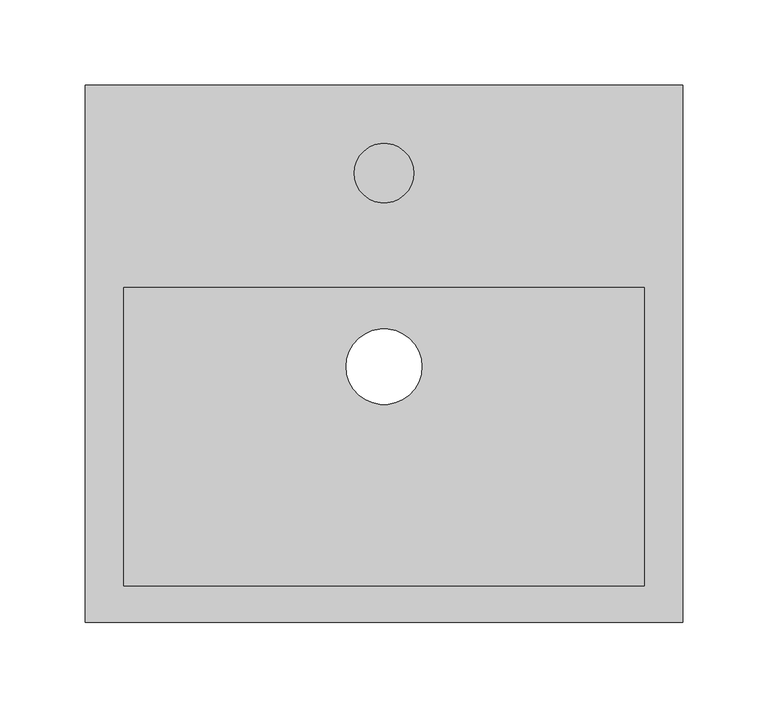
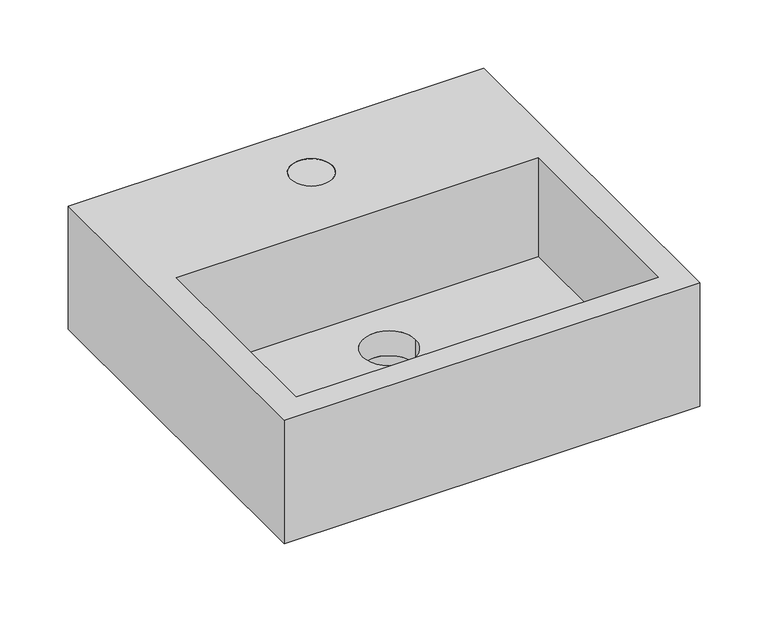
"""IFC4 building model written with IfcOpenShell, lengths in millimetres: flow terminal geometry, Deca_Cuba de Apoio Retangular_L7300 : L.7300.17_Branco Gelo GE17."""

from ifc_helpers import new_model, si_unit, point, frame, frame_2d, origin, origin_with_axes, origin_2d, place, context, project, spatial, polyline, circle_curve, trimmed, segment, composite_curve, outline, extrude, source, transform, mapped, element, save
from ifc_brep_helpers import plane_surface, revolved_surface, advanced_brep


def flow_terminal_3fb7dc42(model_context):
    return source(origin(), model_context, "Body", "SolidModel", [
        advanced_brep(
        [(175.0, 165.0, 110.0), (-175.0, 165.0, 110.0), (-175.0, -150.0, 110.0), (175.0, -150.0, 110.0), (-152.5, 46.5, 110.0), (152.5, 46.5, 110.0), (152.5, -128.5, 110.0), (-152.5, -128.5, 110.0), (17.5, 113.5, 110.0), (-17.5, 113.5, 110.0), (175.0, 165.0, 0.0), (175.0, -150.0, 0.0), (-175.0, -150.0, 0.0), (-175.0, 165.0, 0.0), (17.5, 113.5, 0.0), (-17.5, 113.5, 0.0), (-22.2, 0.0, 0.0), (22.2, 0.0, 0.0), (152.5, 46.5, 22.0), (-152.5, 46.5, 22.0), (-152.5, -128.5, 22.0), (152.5, -128.5, 22.0), (-22.2, 0.0, 22.0), (22.2, 0.0, 22.0)],
        [
            (0, 1),
            (1, 2),
            (2, 3),
            (3, 0),
            (4, 5),
            (5, 6),
            (6, 7),
            (7, 4),
            (8, 9, circle_curve(frame((0.0, 113.5, 110.0), z_axis=(0.0, 0.0, -1.0), x_axis=(1.0, 0.0, 0.0)), 17.5)),
            (9, 8, circle_curve(frame((0.0, 113.5, 110.0), z_axis=(0.0, 0.0, -1.0), x_axis=(1.0, 0.0, 0.0)), 17.5)),
            (10, 11),
            (11, 12),
            (12, 13),
            (13, 10),
            (14, 15, circle_curve(frame((0.0, 113.5, 0.0), z_axis=(0.0, 0.0, 1.0), x_axis=(1.0, 0.0, 0.0)), 17.5)),
            (15, 14, circle_curve(frame((0.0, 113.5, 0.0), z_axis=(0.0, 0.0, 1.0), x_axis=(1.0, 0.0, 0.0)), 17.5)),
            (16, 17, circle_curve(origin_with_axes(), 22.2)),
            (17, 16, circle_curve(origin_with_axes(), 22.2)),
            (0, 10),
            (13, 1),
            (12, 2),
            (11, 3),
            (18, 19),
            (19, 20),
            (20, 21),
            (21, 18),
            (22, 23, circle_curve(frame((0.0, 0.0, 22.0), z_axis=(0.0, 0.0, -1.0), x_axis=(1.0, 0.0, 0.0)), 22.2)),
            (23, 22, circle_curve(frame((0.0, 0.0, 22.0), z_axis=(0.0, 0.0, -1.0), x_axis=(1.0, 0.0, 0.0)), 22.2)),
            (18, 5),
            (4, 19),
            (7, 20),
            (6, 21),
            (8, 14),
            (15, 9),
            (17, 23),
            (22, 16),
        ],
        [
            plane_surface(frame((-175.0, 165.0, 110.0), z_axis=(0.0, 0.0, 1.0), x_axis=(-1.0, 0.0, 0.0))),
            plane_surface(frame((-175.0, 165.0, 0.0), z_axis=(0.0, 0.0, -1.0), x_axis=(1.0, 0.0, 0.0))),
            plane_surface(frame((175.0, 165.0, 110.0), z_axis=(0.0, 1.0, 0.0), x_axis=(0.0, 0.0, -1.0))),
            plane_surface(frame((-175.0, 165.0, 110.0), z_axis=(-1.0, 0.0, 0.0), x_axis=(0.0, 0.0, -1.0))),
            plane_surface(frame((-175.0, -150.0, 110.0), z_axis=(0.0, -1.0, 0.0), x_axis=(0.0, 0.0, -1.0))),
            plane_surface(frame((175.0, -150.0, 110.0), z_axis=(1.0, 0.0, 0.0), x_axis=(0.0, 0.0, -1.0))),
            plane_surface(frame((-152.5, 46.5, 22.0), z_axis=(0.0, 0.0, 1.0), x_axis=(1.0, 0.0, 0.0))),
            plane_surface(frame((152.5, 46.5, 110.0), z_axis=(0.0, -1.0, 0.0), x_axis=(0.0, 0.0, -1.0))),
            plane_surface(frame((-152.5, 46.5, 110.0), z_axis=(1.0, 0.0, 0.0), x_axis=(0.0, 0.0, -1.0))),
            plane_surface(frame((-152.5, -128.5, 110.0), z_axis=(0.0, 1.0, 0.0), x_axis=(0.0, 0.0, -1.0))),
            plane_surface(frame((152.5, -128.5, 110.0), z_axis=(-1.0, 0.0, 0.0), x_axis=(0.0, 0.0, -1.0))),
            revolved_surface(polyline([(17.5, 113.5, 0.0), (17.5, 113.5, 110.0)]), (0.0, 113.5, -790.0), (0.0, 0.0, -1.0)),
            revolved_surface(polyline([(22.2, 0.0, 0.0), (22.2, 0.0, 22.0)]), (0.0, 0.0, -790.0), (0.0, 0.0, -1.0)),
        ],
        [
            (0, [[1, 2, 3, 4], [5, 6, 7, 8], [9, 10]]),
            (1, [[11, 12, 13, 14], [15, 16], [17, 18]]),
            (2, [[-1, 19, -14, 20]]),
            (3, [[-2, -20, -13, 21]]),
            (4, [[-3, -21, -12, 22]]),
            (5, [[-4, -22, -11, -19]]),
            (6, [[23, 24, 25, 26], [27, 28]]),
            (7, [[-23, 29, -5, 30]]),
            (8, [[-24, -30, -8, 31]]),
            (9, [[-25, -31, -7, 32]]),
            (10, [[-26, -32, -6, -29]]),
            (11, [[-9, 33, -16, 34]]),
            (11, [[-10, -34, -15, -33]]),
            (12, [[-18, 35, -27, 36]]),
            (12, [[-17, -36, -28, -35]]),
        ],
    ),
        extrude(outline(composite_curve([segment(trimmed(circle_curve(origin_2d(), 30.584445), [point((-30.584445, 0.0))], [point((30.584445, 0.0))], False, "CARTESIAN"), True, "CONTINUOUS"), segment(trimmed(circle_curve(origin_2d(), 30.584445), [point((30.584445, 0.0))], [point((-30.584445, 0.0))], False, "CARTESIAN"), True, "CONTINUOUS")], self_intersect=False), holes=[composite_curve([segment(trimmed(circle_curve(origin_2d(), 22.2), [point((22.2, 0.0))], [point((-22.2, 0.0))], True, "CARTESIAN"), True, "CONTINUOUS"), segment(trimmed(circle_curve(origin_2d(), 22.2), [point((-22.2, 0.0))], [point((22.2, 0.0))], True, "CARTESIAN"), True, "CONTINUOUS")], self_intersect=False)]), frame((0.0, 0.0, -23.6043213), z_axis=(0.0, 0.0, 1.0), x_axis=(1.0, 0.0, 0.0)), (0.0, 0.0, 1.0), 23.6043213),
        extrude(outline(composite_curve([segment(trimmed(circle_curve(frame_2d((0.0, 113.5)), 17.5), [point((-17.5, 113.5))], [point((17.5, 113.5))], False, "CARTESIAN"), True, "CONTINUOUS"), segment(trimmed(circle_curve(frame_2d((0.0, 113.5)), 17.5), [point((17.5, 113.5))], [point((-17.5, 113.5))], False, "CARTESIAN"), True, "CONTINUOUS")], self_intersect=False)), frame((0.0, 0.0, 108.0), z_axis=(0.0, 0.0, 1.0), x_axis=(1.0, 0.0, 0.0)), (0.0, 0.0, 1.0), 2.0),
    ])


if __name__ == "__main__":
    model = new_model("IFC4")
    model_context = context("Model", 3, world=origin())
    ifc_project = project(units=[si_unit("LENGTHUNIT", "METRE", prefix="MILLI")], contexts=[model_context])
    site = spatial("IfcSite", under=ifc_project)
    building = spatial("IfcBuilding", under=site)
    placement = place(None, origin())
    flow_terminal_shape = flow_terminal_3fb7dc42(model_context)
    element("IfcFlowTerminal", 1, ObjectType="Deca_Cuba de Apoio Retangular_L7300 : L.7300.17_Branco Gelo GE17", at=placement, inside=building, context=model_context, shape_type="MappedRepresentation", body=[
        mapped(flow_terminal_shape, transform((0.0, 0.0, 0.0), x_axis=(1.0, 0.0, 0.0), y_axis=(0.0, 1.0, 0.0), z_axis=(0.0, 0.0, 1.0))),
    ])
    save(model, "model.ifc")
